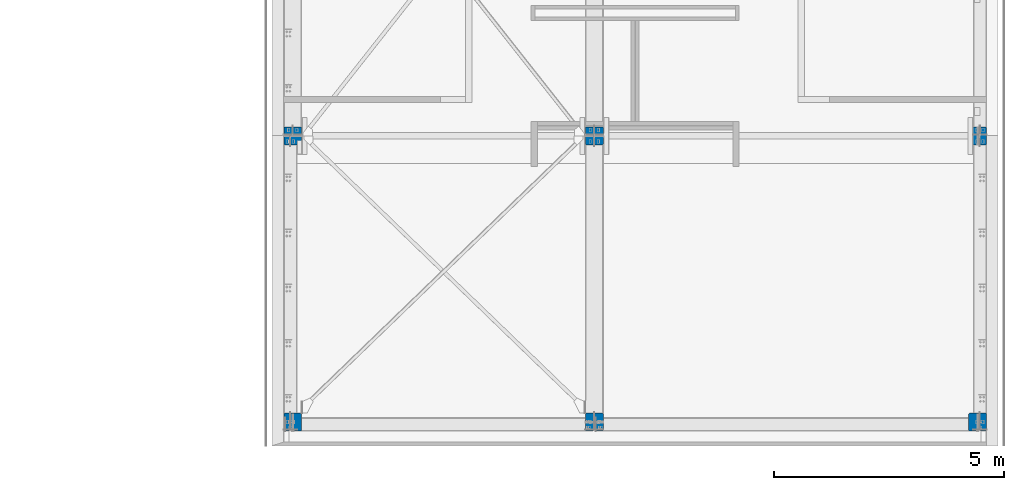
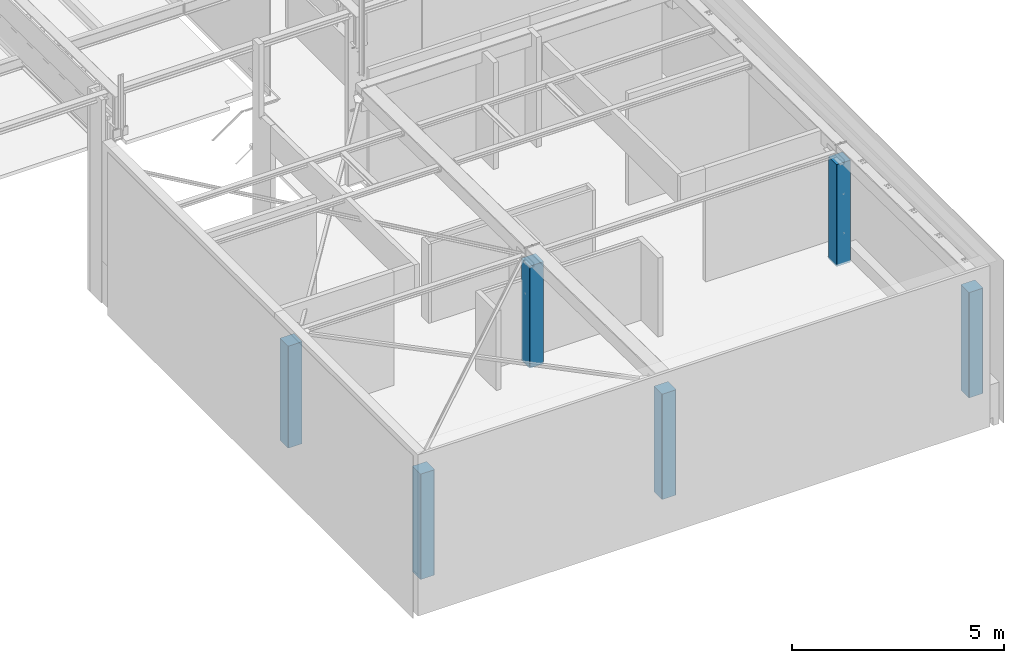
# One storey, part 1 of 186: 6 columns.
"""IFC4X3_ADD2 building model written with IfcOpenShell, lengths in millimetres."""

from ifc_helpers import new_model, si_unit, direction, frame, origin_with_axes, place, context, subcontext, project, spatial, polyline, outline, extrude, element, save


model = new_model("IFC4X3_ADD2")

# Units and contexts
model_context = context("Model", 3, precision=1e-05, world=origin_with_axes(), true_north=direction((0.0, 1.0)))
body_context = subcontext(model_context, "Body", "Model", "MODEL_VIEW")
ifc_project = project(units=[si_unit("LENGTHUNIT", "METRE", prefix="MILLI"), si_unit("AREAUNIT", "SQUARE_METRE"), si_unit("VOLUMEUNIT", "CUBIC_METRE"), si_unit("PLANEANGLEUNIT", "RADIAN"), si_unit("TIMEUNIT", "SECOND"), si_unit("MASSUNIT", "GRAM")], contexts=[model_context])

# Site, building, storey
site_placement = place(None, origin_with_axes())
site = spatial("IfcSite", under=ifc_project, at=site_placement, Name="Site", CompositionType="ELEMENT")
building_placement = place(site_placement, origin_with_axes())
building = spatial("IfcBuilding", under=site, at=building_placement, Name="IFC Building Story")
storey_placement = place(building_placement, frame((0.0, 0.0, 4370.0), z_axis=(0.0, 0.0, 1.0), x_axis=(1.0, 0.0, 0.0)))
storey = spatial("IfcBuildingStorey", under=building, at=storey_placement, Name="ETAGE 10 (1)", Elevation=4370.0)

# Columns
column_1_placement = place(storey_placement, frame((33206.188, -7839.999999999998, -60.0), z_axis=(0.0, 0.0, 1.0), x_axis=(0.0, -1.0, 0.0)))
element("IfcColumn", 1, at=column_1_placement, inside=storey, Name="COLUMN", ObjectType="EB_CR_390*390*15", context=body_context, shape_type="SweptSolid", body=[
    extrude(outline(polyline([(195.0, 179.9999999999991), (195.0, -180.0), (179.9999999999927, -195.0), (-180.0, -195.0), (-195.0000000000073, -179.9999999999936), (-195.0, 179.9999999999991), (-180.0, 194.9999999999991), (179.9999999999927, 194.9999999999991), (195.0, 179.9999999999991)])), frame((195.0000000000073, 195.0, 0.0), z_axis=(0.0, 0.0, 1.0), x_axis=(1.0, 0.0, 0.0)), (0.0, 0.0, 1.0), 2930.0),
])
for number, where, z_axis, x_axis, name in (
    (2, (48115.68599999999, -8230.0, -60.0), (0.0, 0.0, 1.0), (1.0, 0.0, 0.0), "COLUMN"),
    (3, (39771.18899999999, -8230.0, -60.0), (0.0, 0.0, 1.0), (1.0, 0.0, 0.0), "COLUMN"),
):
    element("IfcColumn", number, at=place(storey_placement, frame(where, z_axis=z_axis, x_axis=x_axis)), inside=storey, Name=name, ObjectType="EB_CR_390*390*15", context=body_context, shape_type="SweptSolid", body=[
        extrude(outline(polyline([(179.9999999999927, -195.0), (-180.0, -195.0), (-195.0000000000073, -179.9999999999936), (-195.0, 179.9999999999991), (-180.0, 194.9999999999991), (179.9999999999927, 194.9999999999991), (195.0, 179.9999999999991), (195.0, -180.0), (179.9999999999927, -195.0)])), frame((195.0000000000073, 195.0, 0.0), z_axis=(0.0, 0.0, 1.0), x_axis=(1.0, 0.0, 0.0)), (0.0, 0.0, 1.0), 2930.0),
    ])
for number, where, z_axis, x_axis, name in (
    (4, (33206.188, -14070.0, -60.0), (0.0, 0.0, 1.0), (0.0, -1.0, 0.0), "COLUMN"),
    (5, (39771.189, -14070.0, -60.0), (0.0, 0.0, 1.0), (0.0, -1.0, 0.0), "COLUMN"),
):
    element("IfcColumn", number, at=place(storey_placement, frame(where, z_axis=z_axis, x_axis=x_axis)), inside=storey, Name=name, ObjectType="EB_CR_390*390*15", context=body_context, shape_type="SweptSolid", body=[
        extrude(outline(polyline([(195.0, 179.9999999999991), (195.0, -180.0), (179.9999999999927, -195.0), (-180.0, -195.0), (-195.0000000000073, -179.9999999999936), (-195.0, 179.9999999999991), (-180.0, 194.9999999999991), (179.9999999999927, 194.9999999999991), (195.0, 179.9999999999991)])), frame((195.0000000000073, 195.0, 0.0), z_axis=(0.0, 0.0, 1.0), x_axis=(1.0, 0.0, 0.0)), (0.0, 0.0, 1.0), 3030.0),
    ])
column_2_placement = place(storey_placement, frame((48116.18900000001, -14460.0, -60.0), z_axis=(0.0, 0.0, 1.0), x_axis=(1.0, 0.0, 0.0)))
element("IfcColumn", 6, at=column_2_placement, inside=storey, Name="COLUMN", ObjectType="EB_CR_390*390*15", context=body_context, shape_type="SweptSolid", body=[
    extrude(outline(polyline([(179.9999999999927, -195.0), (-180.0, -195.0), (-195.0000000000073, -179.9999999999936), (-195.0, 179.9999999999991), (-180.0, 194.9999999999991), (179.9999999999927, 194.9999999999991), (195.0, 179.9999999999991), (195.0, -180.0), (179.9999999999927, -195.0)])), frame((195.0000000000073, 195.0, 0.0), z_axis=(0.0, 0.0, 1.0), x_axis=(1.0, 0.0, 0.0)), (0.0, 0.0, 1.0), 3030.0),
])

save(model, "model.ifc")
